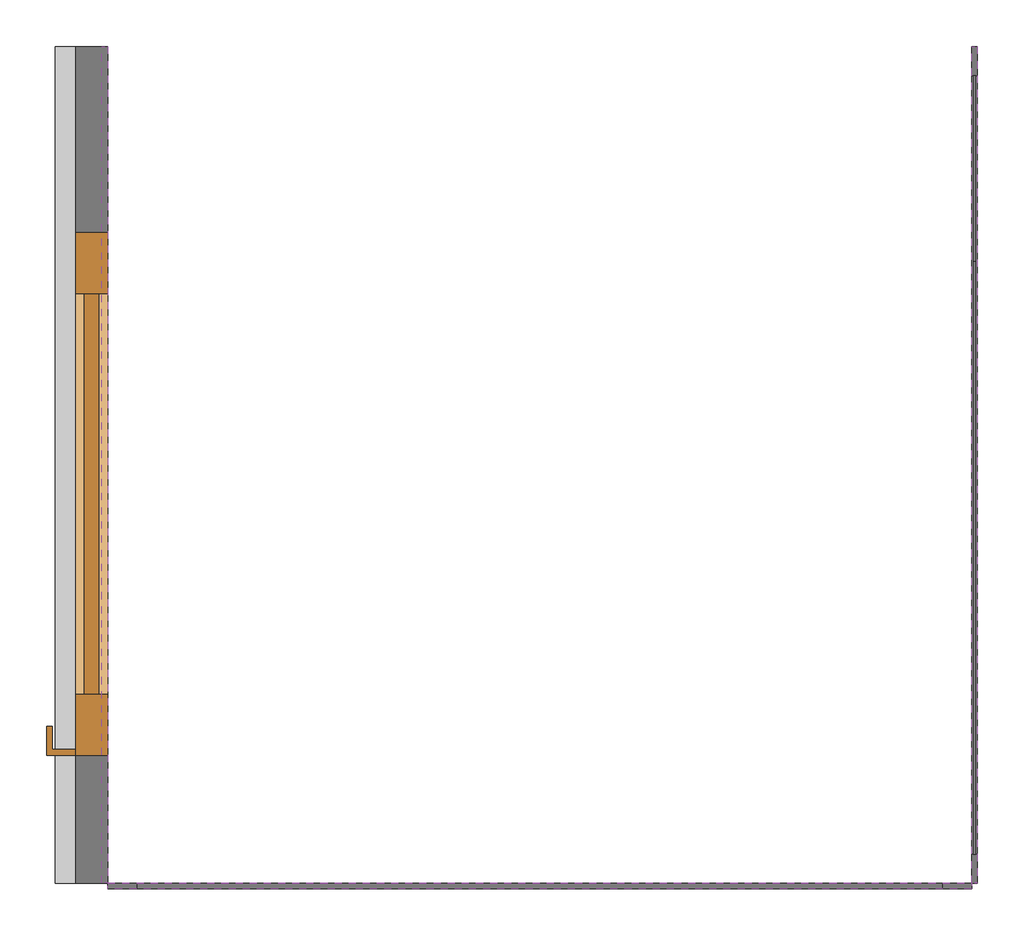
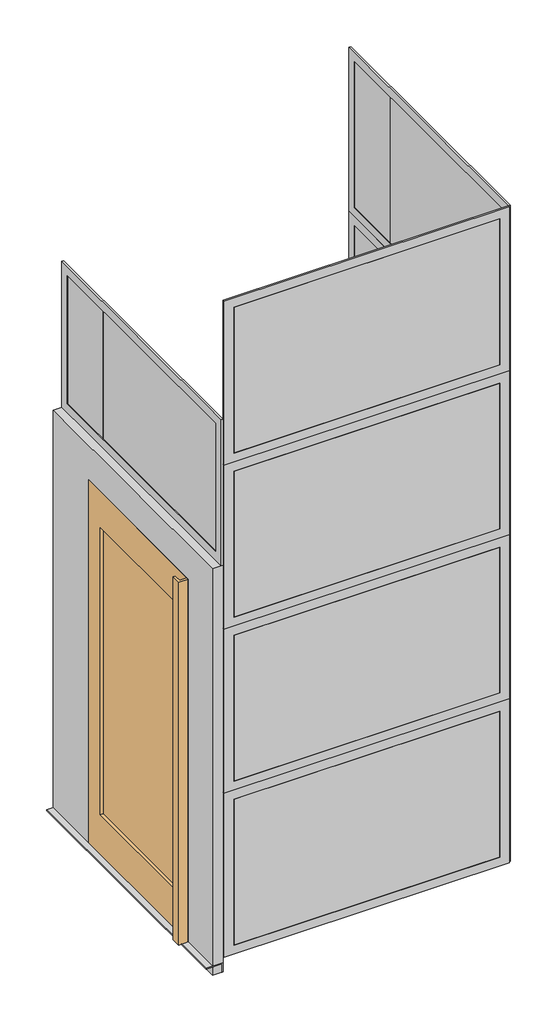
# One storey: 10 proxies, 1 door.
"""IFC4 building model written with IfcOpenShell, lengths in millimetres."""

from ifc_helpers import new_model, si_unit, origin, place, context, project, spatial, transform, mapped, element, save
from components import a_side_glass_panel_flexible_height_8747b029, b_side_glass_panel_flexible_height_and_width_ffa260e1, c_side_door_aluminium_1100_x_1467_left_hinged_ad710f9b, c_side_glass_panel_flexible_height_and_width_e43f4e54, aluminium_door_single_glass_left_hinged_bedaa4f7

model = new_model("IFC4")

# Units and contexts
model_context = context("Model", 3, world=origin())
ifc_project = project(units=[si_unit("LENGTHUNIT", "METRE", prefix="MILLI")], contexts=[model_context])

# Site, building, storey
site = spatial("IfcSite", under=ifc_project)
building = spatial("IfcBuilding", under=site)
storey = spatial("IfcBuildingStorey", under=building, Name="Cibes - plan 3", Elevation=8991.0118165)

# Proxies
placement = place(None, origin())
a_side_glass_panel_flexible_height_shape = a_side_glass_panel_flexible_height_8747b029(model_context)
element("IfcBuildingElementProxy", 1, Name="A-side_Glass Panel : Flexible Height", ObjectType="A-side_Glass Panel : Flexible Height", at=placement, inside=storey, context=model_context, shape_type="MappedRepresentation", body=[
    mapped(a_side_glass_panel_flexible_height_shape, transform((24984.9520027, 30099.6913541, 9031.0118194), x_axis=(0.0, -1.0000000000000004, 0.0), y_axis=(1.0000000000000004, 0.0, 0.0), z_axis=(0.0, 0.0, 1.0))),
])
element("IfcBuildingElementProxy", 2, Name="A-side_Glass Panel : Flexible Height", ObjectType="A-side_Glass Panel : Flexible Height", at=placement, inside=storey, context=model_context, shape_type="MappedRepresentation", body=[
    mapped(a_side_glass_panel_flexible_height_shape, transform((24984.9520027, 30099.6913541, 9935.0118194), x_axis=(0.0, -1.0000000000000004, 0.0), y_axis=(1.0000000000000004, 0.0, 0.0), z_axis=(0.0, 0.0, 1.0))),
])
element("IfcBuildingElementProxy", 3, Name="A-side_Glass Panel : Flexible Height", ObjectType="A-side_Glass Panel : Flexible Height", at=placement, inside=storey, context=model_context, shape_type="MappedRepresentation", body=[
    mapped(a_side_glass_panel_flexible_height_shape, transform((24984.9520027, 30099.6913541, 10839.0118194), x_axis=(0.0, -1.0000000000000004, 0.0), y_axis=(1.0000000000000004, 0.0, 0.0), z_axis=(0.0, 0.0, 1.0))),
])
element("IfcBuildingElementProxy", 4, Name="A-side_Glass Panel : Flexible Height", ObjectType="A-side_Glass Panel : Flexible Height", at=placement, inside=storey, context=model_context, shape_type="MappedRepresentation", body=[
    mapped(a_side_glass_panel_flexible_height_shape, transform((24984.9520027, 30099.6913541, 11743.0118194), x_axis=(0.0, -1.0000000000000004, 0.0), y_axis=(1.0000000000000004, 0.0, 0.0), z_axis=(0.0, 0.0, 1.0))),
])
b_side_glass_panel_flexible_height_and_width_shape = b_side_glass_panel_flexible_height_and_width_ffa260e1(model_context)
element("IfcBuildingElementProxy", 5, Name="B-side_Glass Panel : Flexible Height and Width", ObjectType="B-side_Glass Panel : Flexible Height and Width", at=placement, inside=storey, context=model_context, shape_type="MappedRepresentation", body=[
    mapped(b_side_glass_panel_flexible_height_and_width_shape, transform((23507.9519947, 28659.6913539, 9031.0118194), x_axis=(1.0, 0.0, 0.0), y_axis=(0.0, 1.0, 0.0), z_axis=(0.0, 0.0, 1.0))),
])
element("IfcBuildingElementProxy", 6, Name="B-side_Glass Panel : Flexible Height and Width", ObjectType="B-side_Glass Panel : Flexible Height and Width", at=placement, inside=storey, context=model_context, shape_type="MappedRepresentation", body=[
    mapped(b_side_glass_panel_flexible_height_and_width_shape, transform((23507.9519947, 28659.6913539, 9935.0118194), x_axis=(1.0, 0.0, 0.0), y_axis=(0.0, 1.0, 0.0), z_axis=(0.0, 0.0, 1.0))),
])
element("IfcBuildingElementProxy", 7, Name="B-side_Glass Panel : Flexible Height and Width", ObjectType="B-side_Glass Panel : Flexible Height and Width", at=placement, inside=storey, context=model_context, shape_type="MappedRepresentation", body=[
    mapped(b_side_glass_panel_flexible_height_and_width_shape, transform((23507.9519947, 28659.6913539, 10839.0118194), x_axis=(1.0, 0.0, 0.0), y_axis=(0.0, 1.0, 0.0), z_axis=(0.0, 0.0, 1.0))),
])
element("IfcBuildingElementProxy", 8, Name="B-side_Glass Panel : Flexible Height and Width", ObjectType="B-side_Glass Panel : Flexible Height and Width", at=placement, inside=storey, context=model_context, shape_type="MappedRepresentation", body=[
    mapped(b_side_glass_panel_flexible_height_and_width_shape, transform((23507.9519947, 28659.6913539, 11743.0118194), x_axis=(1.0, 0.0, 0.0), y_axis=(0.0, 1.0, 0.0), z_axis=(0.0, 0.0, 1.0))),
])
c_side_door_aluminium_1100_x_1467_left_hinged_shape = c_side_door_aluminium_1100_x_1467_left_hinged_ad710f9b(model_context)
element("IfcBuildingElementProxy", 9, Name="C-side_Door_aluminium : 1100 x 1467 - Left hinged", ObjectType="C-side_Door_aluminium : 1100 x 1467 - Left hinged", at=placement, inside=storey, context=model_context, shape_type="MappedRepresentation", body=[
    mapped(c_side_door_aluminium_1100_x_1467_left_hinged_shape, transform((23507.9520026, 30099.6913539, 8946.0118165), x_axis=(0.0, -1.0, 0.0), y_axis=(1.0, 0.0, 0.0), z_axis=(0.0, 0.0, 1.0))),
])
c_side_glass_panel_flexible_height_and_width_shape = c_side_glass_panel_flexible_height_and_width_e43f4e54(model_context)
element("IfcBuildingElementProxy", 10, Name="C-side_Glass Panel : Flexible Height and Width", ObjectType="C-side_Glass Panel : Flexible Height and Width", at=placement, inside=storey, context=model_context, shape_type="MappedRepresentation", body=[
    mapped(c_side_glass_panel_flexible_height_and_width_shape, transform((23487.9520026, 30099.6913452, 11186.0118165), x_axis=(0.0, -1.0000000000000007, 0.0), y_axis=(1.0000000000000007, 0.0, 0.0), z_axis=(0.0, 0.0, 1.0))),
])

# Door
aluminium_door_single_glass_left_hinged_shape = aluminium_door_single_glass_left_hinged_bedaa4f7(model_context)
element("IfcDoor", 11, ObjectType="Aluminium Door_single_glass : Left hinged", at=placement, inside=storey, context=model_context, shape_type="MappedRepresentation", body=[
    mapped(aluminium_door_single_glass_left_hinged_shape, transform((23507.9520026, 29892.6913539, 8946.0118165), x_axis=(0.0, -1.0, 0.0), y_axis=(1.0, 0.0, 0.0), z_axis=(0.0, 0.0, 1.0))),
])

save(model, "model.ifc")
